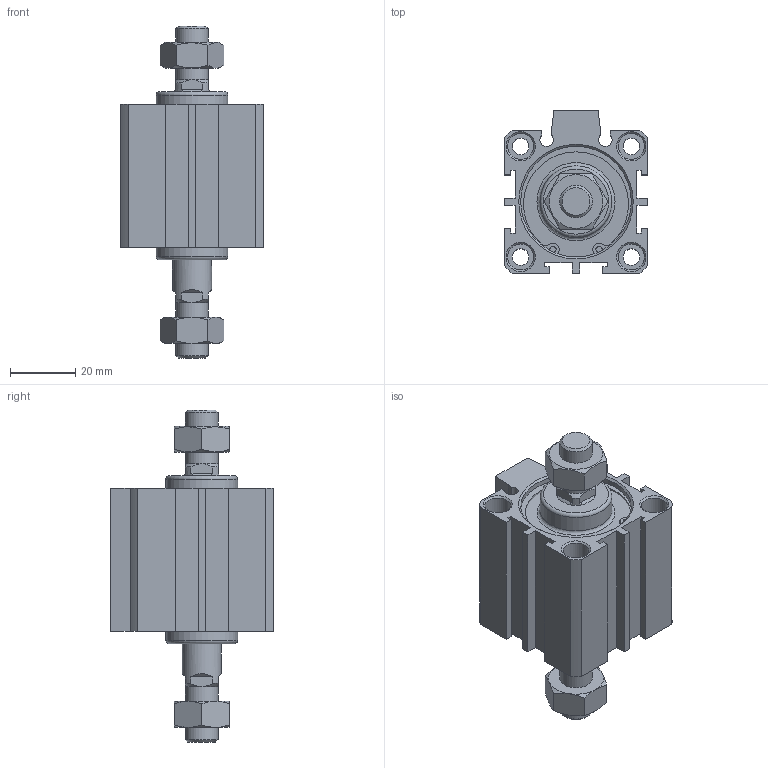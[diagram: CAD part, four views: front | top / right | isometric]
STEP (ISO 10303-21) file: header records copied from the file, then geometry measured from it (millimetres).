
FILE_DESCRIPTION((''),'2;1');
FILE_NAME('I:\3D電子目錄\氣缸\JDD\JDD-BS\JDD32-BS\JDD32x10-BS.stp','2007-02-27T14:01:58',('662F206'),(''),'Autodesk Inventor 10','Autodesk Inventor 10','');
FILE_SCHEMA(('AUTOMOTIVE_DESIGN { 1 0 10303 214 1 1 1 1 }'));
Length unit declared in the file: millimetre
Products named in the file (3): JDD32-BS; R 形環 35
Assembly tree (3 placements, depth 2):
  JDD32-BS
    JDD32-BS
    R 形環 35  x2
Bounding box: 44 x 50 x 102 mm (x, y, z)
Volume: 80924.3 mm3; surface area: 25026.2 mm2
Topology: 3 solids, 3 shells, 207 faces, 489 edges, 314 vertices
Faces by surface type: plane 112, cylinder 53, cone 38, bspline 2, torus 2
Full cylindrical faces by diameter (mm): 1.9 x4, 2.2 x2, 5.1 x4, 8 x8, 10 x4, 12 x1, 22 x2, 34 x4, 36 x2
Entity records: 5397 total; most frequent: CARTESIAN_POINT 1081, DIRECTION 894, ORIENTED_EDGE 802, EDGE_CURVE 401, AXIS2_PLACEMENT_3D 346, VERTEX_POINT 287, EDGE_LOOP 284, VECTOR 202
